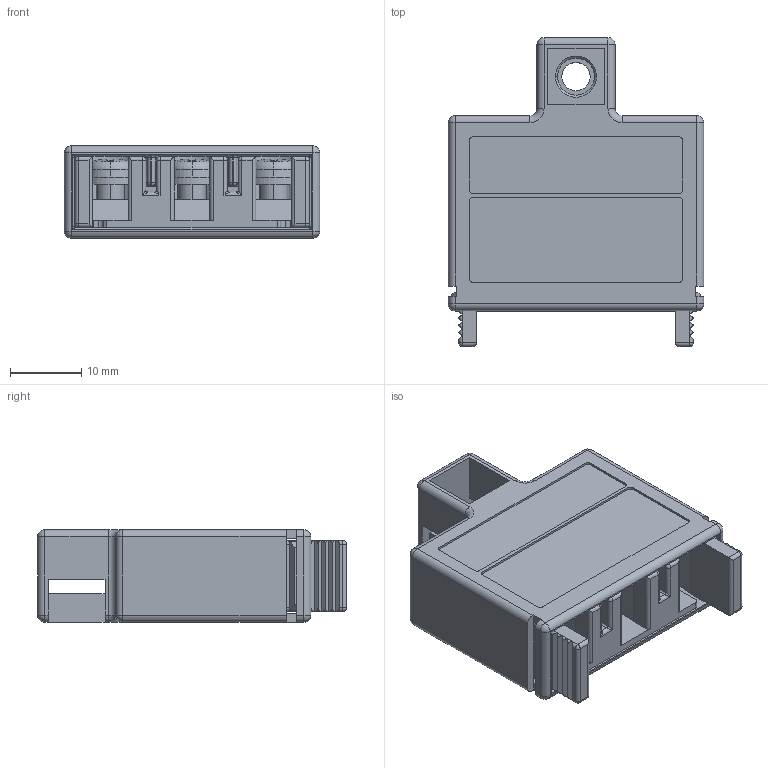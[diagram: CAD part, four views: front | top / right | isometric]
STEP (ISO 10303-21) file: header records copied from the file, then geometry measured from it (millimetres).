
FILE_DESCRIPTION(('Creo Elements/Direct Modeling STEP Export'),'2;1');
FILE_NAME('OA-QTM34.stp','2014-02-07T15:39:36',(''),(''),'Creo Elements/Direct Modeling STEP processor for AP214 (Solid Model)','Creo Elements/Direct Modeling 18.1B 29-Sep-2012 (C) Parametric Technology GmbH','');
FILE_SCHEMA(('AUTOMOTIVE_DESIGN { 1 0 10303 214 1 1 1 1 }'));
Length unit declared in the file: millimetre
Products named in the file (4): 本体; ねじ; ケース; OA-QTM34
Assembly tree (5 placements, depth 2):
  OA-QTM34
    ねじ  x3
    ケース
    本体
Bounding box: 36 x 43.5 x 13 mm (x, y, z)
Volume: 9155.2 mm3; surface area: 12656.8 mm2
Topology: 5 solids, 5 shells, 757 faces, 1983 edges, 1219 vertices
Faces by surface type: plane 442, cylinder 201, sphere 34, cone 34, bspline 24, torus 22
Entity records: 22391 total; most frequent: CARTESIAN_POINT 5437, ORIENTED_EDGE 3582, DIRECTION 3270, EDGE_CURVE 1791, VECTOR 1302, LINE 1302, VERTEX_POINT 1119, AXIS2_PLACEMENT_3D 984
